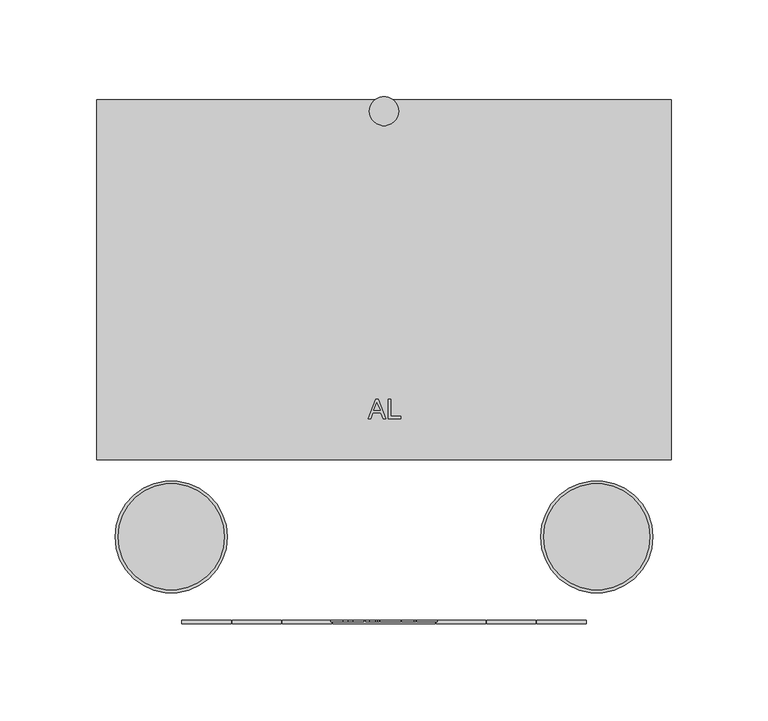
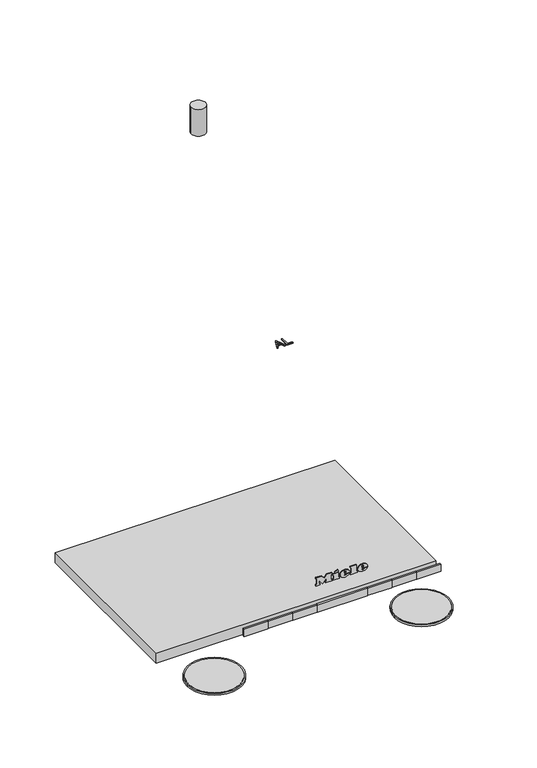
"""IFC4 building model written with IfcOpenShell, lengths in millimetres: proxy geometry, 10837590_RU_DA7198W_GRGR : 28719860_RU_10837590_DA7198W_GRGR."""

import ifcopenshell
import ifcopenshell.guid

model = None  # the IFC model being written
_history = None  # IfcOwnerHistory: only IFC2X3 demands one
_inside = {}  # id of a spatial element -> (the spatial element, [elements in it])
_under = {}  # id of a project, library or spatial element -> (it, [spatial elements below it])
_declared = {}  # id of a project -> (the project, [libraries it declares])
_typed = {}  # id of a type object -> (the type object, [elements of that type])
_made_of = {}  # id of a material, layer set ... -> (it, [elements and type objects made of it])


def new_model(schema):
    """Start an empty IFC model of exactly this schema.

    Asked for "IFC4X3", IfcOpenShell would pick the latest addendum, in which some entities
    have other attributes; the version numbers below select the first issue.
    IFC2X3 requires an IfcOwnerHistory on every rooted entity: one is made here for all.
    """
    global model, _history
    if schema == "IFC4X3":
        model = ifcopenshell.file(schema_version=(4, 3, 0, 0))
    else:
        model = ifcopenshell.file(schema=schema)
    _inside.clear()
    _under.clear()
    _declared.clear()
    _typed.clear()
    _made_of.clear()
    _history = None
    if model.schema == "IFC2X3":
        org = make("IfcOrganization", Name="unknown")
        user = make(
            "IfcPersonAndOrganization",
            ThePerson=make("IfcPerson", FamilyName="unknown"),
            TheOrganization=org,
        )
        app = make(
            "IfcApplication",
            ApplicationDeveloper=org,
            Version="unknown",
            ApplicationFullName="unknown",
            ApplicationIdentifier="unknown",
        )
        _history = make(
            "IfcOwnerHistory",
            OwningUser=user,
            OwningApplication=app,
            ChangeAction="ADDED",
            CreationDate=0,
        )
    return model


def make(cls, **values):
    """One entity of the class cls with the attributes given. An attribute that is None is left unset."""
    return model.create_entity(
        cls, **{name: value for name, value in values.items() if value is not None}
    )


def rooted(cls, **values):
    """An entity with a GlobalId (a new one), such as an element, a storey or a relation."""
    return make(cls, GlobalId=ifcopenshell.guid.new(), OwnerHistory=_history, **values)


def si_unit(unit_type, name, prefix=None):
    """IfcSIUnit, for example si_unit("LENGTHUNIT", "METRE", prefix="MILLI")."""
    return make("IfcSIUnit", UnitType=unit_type, Prefix=prefix, Name=name)


def assignment(units):
    """IfcUnitAssignment: the units of a project."""
    return None if units is None else make("IfcUnitAssignment", Units=units)


def point(xyz):
    """IfcCartesianPoint."""
    return None if xyz is None else make("IfcCartesianPoint", Coordinates=xyz)


def direction(xyz):
    """IfcDirection."""
    return None if xyz is None else make("IfcDirection", DirectionRatios=xyz)


def frame(location, z_axis=None, x_axis=None):
    """IfcAxis2Placement3D, a coordinate frame: its origin and axes. An axis left out is left unset."""
    return make(
        "IfcAxis2Placement3D",
        Location=point(location),
        Axis=direction(z_axis),
        RefDirection=direction(x_axis),
    )


def frame_2d(location, x_axis=None):
    """IfcAxis2Placement2D, a coordinate frame in the plane: its origin and x axis."""
    return make(
        "IfcAxis2Placement2D", Location=point(location), RefDirection=direction(x_axis)
    )


def origin():
    """The frame at (0, 0, 0) with its axes left unset."""
    return frame((0.0, 0.0, 0.0))


def origin_with_axes():
    """The frame at (0, 0, 0) with the z axis (0, 0, 1) and the x axis (1, 0, 0) written out."""
    return frame((0.0, 0.0, 0.0), z_axis=(0.0, 0.0, 1.0), x_axis=(1.0, 0.0, 0.0))


def place(relative_to, where):
    """IfcLocalPlacement: puts the frame where relative to a parent placement (None: the world)."""
    return make(
        "IfcLocalPlacement", PlacementRelTo=relative_to, RelativePlacement=where
    )


def context(
    kind, dimensions, precision=None, world=None, true_north=None, identifier=None
):
    """IfcGeometricRepresentationContext, for example the 3D "Model" context."""
    return make(
        "IfcGeometricRepresentationContext",
        ContextIdentifier=identifier,
        ContextType=kind,
        CoordinateSpaceDimension=dimensions,
        Precision=precision,
        WorldCoordinateSystem=world,
        TrueNorth=true_north,
    )


def project(units=None, contexts=None):
    """IfcProject with its units and contexts."""
    return rooted(
        "IfcProject",
        Name="project",
        RepresentationContexts=contexts,
        UnitsInContext=assignment(units),
    )


def spatial(cls, under=None, at=None, **own):
    """A site, building, storey or space (cls), placed at a placement, below another one or the project."""
    s = rooted(cls, ObjectPlacement=at, **own)
    if under is not None:
        _under.setdefault(under.id(), (under, []))[1].append(s)
    return s


def polyline(points):
    """IfcPolyline through the points."""
    return make("IfcPolyline", Points=[point(p) for p in points])


def circle_curve(where, radius):
    """IfcCircle in the frame where."""
    return make("IfcCircle", Position=where, Radius=radius)


def ellipse_curve(where, semi_axis1, semi_axis2):
    """IfcEllipse in the frame where."""
    return make(
        "IfcEllipse", Position=where, SemiAxis1=semi_axis1, SemiAxis2=semi_axis2
    )


def trimmed(basis, trim1, trim2, sense, master):
    """IfcTrimmedCurve: the piece of a basis curve between two trims."""
    return make(
        "IfcTrimmedCurve",
        BasisCurve=basis,
        Trim1=trim1,
        Trim2=trim2,
        SenseAgreement=sense,
        MasterRepresentation=master,
    )


def segment(curve, same_sense, transition):
    """IfcCompositeCurveSegment."""
    return make(
        "IfcCompositeCurveSegment",
        Transition=transition,
        SameSense=same_sense,
        ParentCurve=curve,
    )


def composite_curve(segments, self_intersect=None):
    """IfcCompositeCurve: segments joined end to end."""
    return make("IfcCompositeCurve", Segments=segments, SelfIntersect=self_intersect)


def outline(outer, holes=None, kind="AREA"):
    """IfcArbitraryClosedProfileDef: a profile drawn as a closed curve; with holes, ...WithVoids."""
    if holes is None:
        return make("IfcArbitraryClosedProfileDef", ProfileType=kind, OuterCurve=outer)
    return make(
        "IfcArbitraryProfileDefWithVoids",
        ProfileType=kind,
        OuterCurve=outer,
        InnerCurves=holes,
    )


def extrude(swept, where, along, depth):
    """IfcExtrudedAreaSolid: the profile swept, set in the frame where, extruded along a direction by depth."""
    return make(
        "IfcExtrudedAreaSolid",
        SweptArea=swept,
        Position=where,
        ExtrudedDirection=direction(along),
        Depth=depth,
    )


def shape(context_of_items, identifier, shape_type, items):
    """IfcShapeRepresentation: the items that make up one representation, for example the "Body"."""
    return make(
        "IfcShapeRepresentation",
        ContextOfItems=context_of_items,
        RepresentationIdentifier=identifier,
        RepresentationType=shape_type,
        Items=items,
    )


def source(mapping_origin, context_of_items, identifier, shape_type, items):
    """IfcRepresentationMap: a shape defined once, which mapped items show again and again."""
    return make(
        "IfcRepresentationMap",
        MappingOrigin=mapping_origin,
        MappedRepresentation=shape(context_of_items, identifier, shape_type, items),
    )


def transform(
    local_origin,
    x_axis=None,
    y_axis=None,
    z_axis=None,
    scale=None,
    scale2=None,
    scale3=None,
    uniform=True,
):
    """IfcCartesianTransformationOperator3D, or its non-uniform kind. x_axis, y_axis, z_axis: its Axis1, 2, 3."""
    if uniform:
        return make(
            "IfcCartesianTransformationOperator3D",
            Axis1=direction(x_axis),
            Axis2=direction(y_axis),
            LocalOrigin=point(local_origin),
            Scale=scale,
            Axis3=direction(z_axis),
        )
    return make(
        "IfcCartesianTransformationOperator3DnonUniform",
        Axis1=direction(x_axis),
        Axis2=direction(y_axis),
        LocalOrigin=point(local_origin),
        Scale=scale,
        Axis3=direction(z_axis),
        Scale2=scale2,
        Scale3=scale3,
    )


def mapped(mapping_source, mapping_target):
    """IfcMappedItem: shows the shape of a source again, moved by a transform."""
    return make(
        "IfcMappedItem", MappingSource=mapping_source, MappingTarget=mapping_target
    )


def made_of(thing, what):
    """Note that an element or type object is made of a material, layer set ...; save() writes the relation."""
    if what is not None:
        _made_of.setdefault(what.id(), (what, []))[1].append(thing)
    return thing


def element(
    cls,
    number,
    at=None,
    inside=None,
    cuts=None,
    type_object=None,
    material=None,
    context=None,
    identifier="Body",
    shape_type=None,
    held_by="IfcProductDefinitionShape",
    body=None,
    shapes=None,
    **own,
):
    """One element of the class cls, such as IfcWall. Its Tag is "e" and its number.

    at: its placement. inside: the storey or other place that contains it. cuts: it is an
    opening in that element (IfcRelVoidsElement). A single representation is given by context,
    identifier, shape_type and body (its items); several are given by shapes. held_by: the class
    of the entity that holds the representations. save() writes the other relations.
    """
    e = rooted(cls, Tag="e%d" % number, ObjectPlacement=at, **own)
    if body is not None:
        shapes = [shape(context, identifier, shape_type, body)]
    if shapes is not None:
        e.Representation = make(held_by, Representations=shapes)
    if inside is not None:
        _inside.setdefault(inside.id(), (inside, []))[1].append(e)
    if cuts is not None:
        rooted(
            "IfcRelVoidsElement", RelatingBuildingElement=cuts, RelatedOpeningElement=e
        )
    if type_object is not None:
        _typed.setdefault(type_object.id(), (type_object, []))[1].append(e)
    return made_of(e, material)


def aggregate(whole, parts):
    """IfcRelAggregates: a whole, such as a stair, and the parts it consists of."""
    return rooted("IfcRelAggregates", RelatingObject=whole, RelatedObjects=parts)


def save(model, path):
    """Write the relations noted so far, then the file.

    IfcRelAggregates (storeys below a building ...), IfcRelContainedInSpatialStructure (elements
    in a storey), IfcRelDefinesByType, IfcRelAssociatesMaterial and IfcRelDeclares: one each for
    every whole, place, type object, material and project.
    """
    for whole, parts in _under.values():
        aggregate(whole, parts)
    for where, things in _inside.values():
        rooted(
            "IfcRelContainedInSpatialStructure",
            RelatedElements=things,
            RelatingStructure=where,
        )
    for kind, things in _typed.values():
        rooted("IfcRelDefinesByType", RelatedObjects=things, RelatingType=kind)
    for what, things in _made_of.values():
        rooted("IfcRelAssociatesMaterial", RelatedObjects=things, RelatingMaterial=what)
    for by, libraries in _declared.values():
        rooted("IfcRelDeclares", RelatingContext=by, RelatedDefinitions=libraries)
    model.write(path)


def plane_surface(at):
    """IfcPlane: the flat surface through the origin of the frame at, square to its z axis."""
    return make("IfcPlane", Position=at)


def cylinder_surface(at, radius):
    """IfcCylindricalSurface: all points at the distance radius from the z axis of the frame at."""
    return make("IfcCylindricalSurface", Position=at, Radius=radius)


def revolved_surface(curve, axis_point, axis_direction):
    """IfcSurfaceOfRevolution: the curve turned about the line through axis_point along axis_direction."""
    return make(
        "IfcSurfaceOfRevolution",
        SweptCurve=make("IfcArbitraryOpenProfileDef", ProfileType="CURVE", Curve=curve),
        AxisPosition=make("IfcAxis1Placement", Location=point(axis_point), Axis=direction(axis_direction)),
    )


def extruded_surface(curve, direction_of_extrusion, depth):
    """IfcSurfaceOfLinearExtrusion: the curve pushed along a direction by depth."""
    return make(
        "IfcSurfaceOfLinearExtrusion",
        SweptCurve=make("IfcArbitraryOpenProfileDef", ProfileType="CURVE", Curve=curve),
        ExtrudedDirection=direction(direction_of_extrusion),
        Depth=depth,
    )


def advanced_brep(points, edges, surfaces, faces):
    """IfcAdvancedBrep: a solid bounded by faces that lie on surfaces and meet in shared edges.

    An edge is (start, end): straight between two places in points (the first is 0);
    or (start, end, curve); or (start, end, curve, False) where it runs against its curve.
    A face is (place in surfaces, loops), or (place, loops, False) where it looks against
    its surface's normal. A loop lists edges by number (the first is 1), with a minus sign
    where the edge is run from its end to its start. The first loop is the outer one.
    """
    corners = [point(p) for p in points]
    vertices = [make("IfcVertexPoint", VertexGeometry=c) for c in corners]
    made = []
    for start, end, *more in edges:
        made.append(
            make(
                "IfcEdgeCurve",
                EdgeStart=vertices[start],
                EdgeEnd=vertices[end],
                EdgeGeometry=more[0] if more else make("IfcPolyline", Points=[corners[start], corners[end]]),
                SameSense=more[1] if len(more) > 1 else True,
            )
        )
    hull = []
    for where, loops, *sense in faces:
        bounds = []
        for j, loop in enumerate(loops):
            ring = [make("IfcOrientedEdge", EdgeElement=made[abs(k) - 1], Orientation=k > 0) for k in loop]
            bounds.append(
                make(
                    "IfcFaceOuterBound" if j == 0 else "IfcFaceBound",
                    Bound=make("IfcEdgeLoop", EdgeList=ring),
                    Orientation=True,
                )
            )
        hull.append(make("IfcAdvancedFace", Bounds=bounds, FaceSurface=surfaces[where], SameSense=sense[0] if sense else True))
    return make("IfcAdvancedBrep", Outer=make("IfcClosedShell", CfsFaces=hull))


def specialty_equipment_e779ac50(model_context):
    return source(origin(), model_context, "Body", "SolidModel", [
        extrude(outline(composite_curve([segment(trimmed(circle_curve(frame_2d((0.0, -22.0)), 7.5), [point((-7.5, -22.0))], [point((7.5, -22.0))], False, "CARTESIAN"), True, "CONTINUOUS"), segment(trimmed(circle_curve(frame_2d((0.0, -22.0)), 7.5), [point((7.5, -22.0))], [point((-7.5, -22.0))], False, "CARTESIAN"), True, "CONTINUOUS")], self_intersect=False)), frame((0.0, 0.0, 440.0), z_axis=(0.0, 0.0, 1.0), x_axis=(1.0, 0.0, 0.0)), (0.0, 0.0, 1.0), 30.0),
        extrude(outline(polyline([(-3.0868012, -170.9480082), (0.9221369, -180.9996288), (-0.4201983, -180.9996288), (-1.5630743, -177.8536246), (-5.7041197, -177.8536246), (-6.9588558, -180.9867213), (-8.1783608, -180.9867213), (-4.1580778, -170.9480082), (-3.0868012, -170.9480082)]), holes=[polyline([(-2.0285512, -176.5915025), (-3.623797, -172.5917386), (-5.2256142, -176.5915025), (-2.0285512, -176.5915025)])]), frame((0.0, 0.0, 296.0), z_axis=(0.0, 0.0, 1.0), x_axis=(1.0, 0.0, 0.0)), (0.0, 0.0, 1.0), 1.0),
        extrude(outline(polyline([(3.5511828, -170.9458297), (3.5511828, -179.7124059), (8.5511838, -179.7124059), (8.5511838, -180.9458278), (2.2629352, -180.9458278), (2.2629352, -170.9458297), (3.5511828, -170.9458297)])), frame((0.0, 0.0, 296.0), z_axis=(0.0, 0.0, 1.0), x_axis=(1.0, 0.0, 0.0)), (0.0, 0.0, 1.0), 1.0),
        extrude(outline(polyline([(16.5, -159.0), (16.5, -202.0), (-16.5, -202.0), (-16.5, -159.0), (16.5, -159.0)]), holes=[polyline([(10.0, -166.0), (-10.0, -166.0), (-10.0, -195.0), (10.0, -195.0), (10.0, -166.0)])]), frame((0.0, 0.0, 4.0), z_axis=(0.0, 0.0, 1.0), x_axis=(1.0, 0.0, 0.0)), (0.0, 0.0, 1.0), 1.0),
        extrude(outline(polyline([(148.5, -16.0), (148.5, -202.0), (-148.5, -202.0), (-148.5, -16.0), (148.5, -16.0)])), frame((0.0, 0.0, 5.0), z_axis=(0.0, 0.0, 1.0), x_axis=(1.0, 0.0, 0.0)), (0.0, 0.0, 1.0), 11.0),
        extrude(outline(polyline([(-104.5, -285.0), (-79.0, -285.0), (-79.0, -287.0), (-104.5, -287.0), (-104.5, -285.0)])), frame((0.0, 0.0, 71.0), z_axis=(0.0, 0.0, 1.0), x_axis=(1.0, 0.0, 0.0)), (0.0, 0.0, 1.0), 8.0),
        extrude(outline(polyline([(-78.5, -285.0), (-53.0, -285.0), (-53.0, -287.0), (-78.5, -287.0), (-78.5, -285.0)])), frame((0.0, 0.0, 71.0), z_axis=(0.0, 0.0, 1.0), x_axis=(1.0, 0.0, 0.0)), (0.0, 0.0, 1.0), 8.0),
        extrude(outline(polyline([(-26.5, -285.0), (26.5, -285.0), (26.5, -287.0), (-26.5, -287.0), (-26.5, -285.0)])), frame((0.0, 0.0, 71.0), z_axis=(0.0, 0.0, 1.0), x_axis=(1.0, 0.0, 0.0)), (0.0, 0.0, 1.0), 8.0),
        extrude(outline(polyline([(53.0, -285.0), (78.5, -285.0), (78.5, -287.0), (53.0, -287.0), (53.0, -285.0)])), frame((0.0, 0.0, 71.0), z_axis=(0.0, 0.0, 1.0), x_axis=(1.0, 0.0, 0.0)), (0.0, 0.0, 1.0), 8.0),
        extrude(outline(polyline([(79.0, -285.0), (104.5, -285.0), (104.5, -287.0), (79.0, -287.0), (79.0, -285.0)])), frame((0.0, 0.0, 71.0), z_axis=(0.0, 0.0, 1.0), x_axis=(1.0, 0.0, 0.0)), (0.0, 0.0, 1.0), 8.0),
        extrude(outline(polyline([(27.0, -285.0), (52.5, -285.0), (52.5, -287.0), (27.0, -287.0), (27.0, -285.0)])), frame((0.0, 0.0, 71.0), z_axis=(0.0, 0.0, 1.0), x_axis=(1.0, 0.0, 0.0)), (0.0, 0.0, 1.0), 8.0),
        extrude(outline(polyline([(-52.5, -285.0), (-27.0, -285.0), (-27.0, -287.0), (-52.5, -287.0), (-52.5, -285.0)])), frame((0.0, 0.0, 71.0), z_axis=(0.0, 0.0, 1.0), x_axis=(1.0, 0.0, 0.0)), (0.0, 0.0, 1.0), 8.0),
        advanced_brep(
        [(21.38, -286.0, 102.133), (21.38, -286.0, 103.042), (27.401, -286.0, 103.042), (16.925, -286.0, 103.042), (19.4, -286.0, 100.0), (27.248, -286.0, 102.133), (24.53, -286.0, 102.133), (22.388, -286.0, 101.125), (21.38, -286.0, 104.194), (21.38, -286.0, 105.175), (22.919, -286.0, 105.175), (22.919, -286.0, 104.194), (21.38, -285.0, 102.133), (22.388, -285.0, 101.125), (24.53, -285.0, 102.133), (27.248, -285.0, 102.133), (19.4, -285.0, 100.0), (16.925, -285.0, 103.042), (27.401, -285.0, 103.042), (21.38, -285.0, 103.042), (21.38, -285.0, 104.194), (22.919, -285.0, 104.194), (22.919, -285.0, 105.175), (21.38, -285.0, 105.175)],
        [
            (0, 1),
            (1, 2),
            (2, 3, ellipse_curve(frame((22.163, -286.0, 103.042), z_axis=(0.0, -1.0, 0.0), x_axis=(-1.0, 0.0, 0.0)), 5.238, 4.329)),
            (3, 4, circle_curve(frame((20.4080491, -286.0, 103.348), z_axis=(0.0, -1.0, 0.0), x_axis=(0.0, 0.0, -1.0)), 3.4964649)),
            (4, 5, circle_curve(frame((22.0581428, -286.0, 105.724), z_axis=(0.0, -1.0, 0.0), x_axis=(0.0, 0.0, -1.0)), 6.3110933)),
            (5, 6),
            (6, 7, circle_curve(frame((22.8279412, -286.0, 102.97), z_axis=(0.0, 1.0, 0.0), x_axis=(0.0, 0.0, -1.0)), 1.896727)),
            (7, 0, circle_curve(frame((22.388, -286.0, 102.133), z_axis=(0.0, 1.0, 0.0), x_axis=(0.0, 0.0, -1.0)), 1.008)),
            (8, 9),
            (9, 10, circle_curve(frame((22.1495, -286.0, 105.175), z_axis=(0.0, 1.0, 0.0), x_axis=(0.0, 0.0, -1.0)), 0.7695)),
            (10, 11),
            (11, 8),
            (12, 13, circle_curve(frame((22.388, -285.0, 102.133), z_axis=(0.0, -1.0, 0.0), x_axis=(0.0, 0.0, -1.0)), 1.008)),
            (13, 14, circle_curve(frame((22.8279412, -285.0, 102.97), z_axis=(0.0, -1.0, 0.0), x_axis=(0.0, 0.0, -1.0)), 1.896727)),
            (14, 15),
            (15, 16, circle_curve(frame((22.0581428, -285.0, 105.724), z_axis=(0.0, 1.0, 0.0), x_axis=(0.0, 0.0, -1.0)), 6.3110933)),
            (16, 17, circle_curve(frame((20.4080491, -285.0, 103.348), z_axis=(0.0, 1.0, 0.0), x_axis=(0.0, 0.0, -1.0)), 3.4964649)),
            (17, 18, ellipse_curve(frame((22.163, -285.0, 103.042), z_axis=(0.0, 1.0, 0.0), x_axis=(-1.0, 0.0, 0.0)), 5.238, 4.329)),
            (18, 19),
            (19, 12),
            (20, 21),
            (21, 22),
            (22, 23, circle_curve(frame((22.1495, -285.0, 105.175), z_axis=(0.0, -1.0, 0.0), x_axis=(0.0, 0.0, -1.0)), 0.7695)),
            (23, 20),
            (0, 12),
            (19, 1),
            (18, 2),
            (5, 15),
            (14, 6),
            (17, 3),
            (13, 7),
            (16, 4),
            (8, 20),
            (23, 9),
            (22, 10),
            (21, 11),
        ],
        [
            plane_surface(frame((21.38, -286.0, 103.042), z_axis=(0.0, -1.0, 0.0), x_axis=(0.0, 0.0, 1.0))),
            plane_surface(frame((21.38, -285.0, 103.042), z_axis=(0.0, 1.0, 0.0), x_axis=(0.0, 0.0, -1.0))),
            plane_surface(frame((21.38, -286.0, 102.133), z_axis=(1.0, 0.0, 0.0), x_axis=(0.0, 1.0, 0.0))),
            plane_surface(frame((21.38, -286.0, 103.042), z_axis=(0.0, 0.0, -1.0), x_axis=(0.0, 1.0, 0.0))),
            plane_surface(frame((27.248, -286.0, 102.133), z_axis=(0.0, 0.0, 1.0), x_axis=(0.0, 1.0, 0.0))),
            extruded_surface(trimmed(ellipse_curve(frame((22.163, -284.0, 103.042), z_axis=(0.0, -1.0, 0.0), x_axis=(-1.0, 0.0, 0.0)), 5.238, 4.329), [point((27.401, -284.0, 103.042))], [point((16.925, -284.0, 103.042))], True, "CARTESIAN"), (0.0, -1.0, 0.0), 1.0),
            revolved_surface(polyline([(22.8279412, -285.0, 101.073273), (22.8279412, -286.0, 101.073273)]), (22.8279412, -285.0, 102.97), (0.0, 1.0, 0.0)),
            revolved_surface(polyline([(22.388, -285.0, 101.125), (22.388, -286.0, 101.125)]), (22.388, -285.0, 102.133), (0.0, 1.0, 0.0)),
            cylinder_surface(frame((20.4080491, -285.0, 103.348), z_axis=(0.0, -1.0, 0.0), x_axis=(0.0, 0.0, -1.0)), 3.4964649),
            cylinder_surface(frame((22.0581428, -285.0, 105.724), z_axis=(0.0, -1.0, 0.0), x_axis=(0.0, 0.0, -1.0)), 6.3110933),
            plane_surface(frame((21.38, -286.0, 104.194), z_axis=(1.0, 0.0, 0.0), x_axis=(0.0, 1.0, 0.0))),
            revolved_surface(polyline([(22.1495, -285.0, 104.4055), (22.1495, -286.0, 104.4055)]), (22.1495, -285.0, 105.175), (0.0, 1.0, 0.0)),
            plane_surface(frame((22.919, -286.0, 105.175), z_axis=(-1.0, 0.0, 0.0), x_axis=(0.0, 1.0, 0.0))),
            plane_surface(frame((22.919, -286.0, 104.194), z_axis=(0.0, 0.0, 1.0), x_axis=(0.0, 1.0, 0.0))),
        ],
        [
            (0, [[1, 2, 3, 4, 5, 6, 7, 8], [9, 10, 11, 12]]),
            (1, [[13, 14, 15, 16, 17, 18, 19, 20], [21, 22, 23, 24]]),
            (2, [[-1, 25, -20, 26]]),
            (3, [[-2, -26, -19, 27]]),
            (4, [[-6, 28, -15, 29]]),
            (5, [[-3, -27, -18, 30]]),
            (6, [[-7, -29, -14, 31]]),
            (7, [[-8, -31, -13, -25]]),
            (8, [[-4, -30, -17, 32]]),
            (9, [[-5, -32, -16, -28]]),
            (10, [[-9, 33, -24, 34]]),
            (11, [[-10, -34, -23, 35]]),
            (12, [[-11, -35, -22, 36]]),
            (13, [[-12, -36, -21, -33]]),
        ],
    ),
        advanced_brep(
        [(2.597, -286.0, 102.133), (2.597, -286.0, 103.042), (8.618, -286.0, 103.042), (-1.858, -286.0, 103.042), (0.617, -286.0, 100.0), (8.465, -286.0, 102.133), (5.747, -286.0, 102.133), (3.605, -286.0, 101.125), (2.597, -286.0, 104.194), (2.597, -286.0, 105.175), (4.136, -286.0, 105.175), (4.136, -286.0, 104.194), (2.597, -285.0, 102.133), (3.605, -285.0, 101.125), (5.747, -285.0, 102.133), (8.465, -285.0, 102.133), (0.617, -285.0, 100.0), (-1.858, -285.0, 103.042), (8.618, -285.0, 103.042), (2.597, -285.0, 103.042), (2.597, -285.0, 104.194), (4.136, -285.0, 104.194), (4.136, -285.0, 105.175), (2.597, -285.0, 105.175)],
        [
            (0, 1),
            (1, 2),
            (2, 3, ellipse_curve(frame((3.38, -286.0, 103.042), z_axis=(0.0, -1.0, 0.0), x_axis=(-1.0, 0.0, 0.0)), 5.238, 4.329)),
            (3, 4, circle_curve(frame((1.6250491, -286.0, 103.348), z_axis=(0.0, -1.0, 0.0), x_axis=(0.0, 0.0, -1.0)), 3.4964649)),
            (4, 5, circle_curve(frame((3.2751428, -286.0, 105.724), z_axis=(0.0, -1.0, 0.0), x_axis=(0.0, 0.0, -1.0)), 6.3110933)),
            (5, 6),
            (6, 7, circle_curve(frame((4.0449412, -286.0, 102.97), z_axis=(0.0, 1.0, 0.0), x_axis=(0.0, 0.0, -1.0)), 1.896727)),
            (7, 0, circle_curve(frame((3.605, -286.0, 102.133), z_axis=(0.0, 1.0, 0.0), x_axis=(0.0, 0.0, -1.0)), 1.008)),
            (8, 9),
            (9, 10, circle_curve(frame((3.3665, -286.0, 105.175), z_axis=(0.0, 1.0, 0.0), x_axis=(0.0, 0.0, -1.0)), 0.7695)),
            (10, 11),
            (11, 8),
            (12, 13, circle_curve(frame((3.605, -285.0, 102.133), z_axis=(0.0, -1.0, 0.0), x_axis=(0.0, 0.0, -1.0)), 1.008)),
            (13, 14, circle_curve(frame((4.0449412, -285.0, 102.97), z_axis=(0.0, -1.0, 0.0), x_axis=(0.0, 0.0, -1.0)), 1.896727)),
            (14, 15),
            (15, 16, circle_curve(frame((3.2751428, -285.0, 105.724), z_axis=(0.0, 1.0, 0.0), x_axis=(0.0, 0.0, -1.0)), 6.3110933)),
            (16, 17, circle_curve(frame((1.6250491, -285.0, 103.348), z_axis=(0.0, 1.0, 0.0), x_axis=(0.0, 0.0, -1.0)), 3.4964649)),
            (17, 18, ellipse_curve(frame((3.38, -285.0, 103.042), z_axis=(0.0, 1.0, 0.0), x_axis=(-1.0, 0.0, 0.0)), 5.238, 4.329)),
            (18, 19),
            (19, 12),
            (20, 21),
            (21, 22),
            (22, 23, circle_curve(frame((3.3665, -285.0, 105.175), z_axis=(0.0, -1.0, 0.0), x_axis=(0.0, 0.0, -1.0)), 0.7695)),
            (23, 20),
            (0, 12),
            (19, 1),
            (18, 2),
            (5, 15),
            (14, 6),
            (17, 3),
            (13, 7),
            (16, 4),
            (8, 20),
            (23, 9),
            (22, 10),
            (21, 11),
        ],
        [
            plane_surface(frame((2.597, -286.0, 103.042), z_axis=(0.0, -1.0, 0.0), x_axis=(0.0, 0.0, 1.0))),
            plane_surface(frame((2.597, -285.0, 103.042), z_axis=(0.0, 1.0, 0.0), x_axis=(0.0, 0.0, -1.0))),
            plane_surface(frame((2.597, -286.0, 102.133), z_axis=(1.0, 0.0, 0.0), x_axis=(0.0, 1.0, 0.0))),
            plane_surface(frame((2.597, -286.0, 103.042), z_axis=(0.0, 0.0, -1.0), x_axis=(0.0, 1.0, 0.0))),
            plane_surface(frame((8.465, -286.0, 102.133), z_axis=(0.0, 0.0, 1.0), x_axis=(0.0, 1.0, 0.0))),
            extruded_surface(trimmed(ellipse_curve(frame((3.38, -284.0, 103.042), z_axis=(0.0, -1.0, 0.0), x_axis=(-1.0, 0.0, 0.0)), 5.238, 4.329), [point((8.618, -284.0, 103.042))], [point((-1.858, -284.0, 103.042))], True, "CARTESIAN"), (0.0, -1.0, 0.0), 1.0),
            revolved_surface(polyline([(4.0449412, -285.0, 101.073273), (4.0449412, -286.0, 101.073273)]), (4.0449412, -285.0, 102.97), (0.0, 1.0, 0.0)),
            revolved_surface(polyline([(3.605, -285.0, 101.125), (3.605, -286.0, 101.125)]), (3.605, -285.0, 102.133), (0.0, 1.0, 0.0)),
            cylinder_surface(frame((1.6250491, -285.0, 103.348), z_axis=(0.0, -1.0, 0.0), x_axis=(0.0, 0.0, -1.0)), 3.4964649),
            cylinder_surface(frame((3.2751428, -285.0, 105.724), z_axis=(0.0, -1.0, 0.0), x_axis=(0.0, 0.0, -1.0)), 6.3110933),
            plane_surface(frame((2.597, -286.0, 104.194), z_axis=(1.0, 0.0, 0.0), x_axis=(0.0, 1.0, 0.0))),
            revolved_surface(polyline([(3.3665, -285.0, 104.4055), (3.3665, -286.0, 104.4055)]), (3.3665, -285.0, 105.175), (0.0, 1.0, 0.0)),
            plane_surface(frame((4.136, -286.0, 105.175), z_axis=(-1.0, 0.0, 0.0), x_axis=(0.0, 1.0, 0.0))),
            plane_surface(frame((4.136, -286.0, 104.194), z_axis=(0.0, 0.0, 1.0), x_axis=(0.0, 1.0, 0.0))),
        ],
        [
            (0, [[1, 2, 3, 4, 5, 6, 7, 8], [9, 10, 11, 12]]),
            (1, [[13, 14, 15, 16, 17, 18, 19, 20], [21, 22, 23, 24]]),
            (2, [[-1, 25, -20, 26]]),
            (3, [[-2, -26, -19, 27]]),
            (4, [[-6, 28, -15, 29]]),
            (5, [[-3, -27, -18, 30]]),
            (6, [[-7, -29, -14, 31]]),
            (7, [[-8, -31, -13, -25]]),
            (8, [[-4, -30, -17, 32]]),
            (9, [[-5, -32, -16, -28]]),
            (10, [[-9, 33, -24, 34]]),
            (11, [[-10, -34, -23, 35]]),
            (12, [[-11, -35, -22, 36]]),
            (13, [[-12, -36, -21, -33]]),
        ],
    ),
        extrude(outline(polyline([(108.469, -7.24), (107.011, -6.556), (108.433, -3.505), (109.891, -4.18), (108.469, -7.24)])), frame((0.0, -286.0, 0.0), z_axis=(0.0, 1.0, 0.0), x_axis=(0.0, 0.0, 1.0)), (0.0, 0.0, 1.0), 1.0),
        extrude(outline(polyline([(106.813, -9.463), (105.202, -9.463), (105.202, -8.392), (101.512, -8.392), (101.512, -9.463), (100.0, -9.463), (100.0, -2.362), (101.512, -2.362), (101.512, -3.406), (106.813, -3.406), (106.813, -9.463)])), frame((0.0, -286.0, 0.0), z_axis=(0.0, 1.0, 0.0), x_axis=(0.0, 0.0, 1.0)), (0.0, 0.0, 1.0), 1.0),
        extrude(outline(polyline([(107.533, 9.122), (107.533, 10.202), (101.512, 10.202), (101.512, 9.122), (100.0, 9.122), (100.0, 16.421), (101.512, 16.421), (101.512, 15.314), (109.0, 15.314), (109.0, 9.122), (107.533, 9.122)])), frame((0.0, -286.0, 0.0), z_axis=(0.0, 1.0, 0.0), x_axis=(0.0, 0.0, 1.0)), (0.0, 0.0, 1.0), 1.0),
        extrude(outline(polyline([(107.533, -27.4), (107.533, -26.311), (101.512, -26.311), (101.512, -27.4), (100.0, -27.4), (100.0, -23.44), (101.512, -23.44), (101.512, -24.52), (105.3341247, -24.52), (100.0, -20.497), (105.4402223, -16.456), (101.512, -16.456), (101.512, -17.563), (100.0, -17.563), (100.0, -10.381), (101.512, -10.381), (101.512, -11.524), (107.533, -11.524), (107.533, -10.381), (109.0, -10.381), (109.0, -15.862), (105.625, -18.49), (109.0, -21.127), (109.0, -27.4), (107.533, -27.4)])), frame((0.0, -286.0, 0.0), z_axis=(0.0, 1.0, 0.0), x_axis=(0.0, 0.0, 1.0)), (0.0, 0.0, 1.0), 1.0),
        extrude(outline(composite_curve([segment(trimmed(circle_curve(frame_2d((-110.0, -242.0)), 27.5), [point((-82.5, -242.0))], [point((-137.5, -242.0))], False, "CARTESIAN"), True, "CONTINUOUS"), segment(trimmed(circle_curve(frame_2d((-110.0, -242.0)), 27.5), [point((-137.5, -242.0))], [point((-82.5, -242.0))], False, "CARTESIAN"), True, "CONTINUOUS")], self_intersect=False)), origin_with_axes(), (0.0, 0.0, 1.0), 2.0),
        extrude(outline(composite_curve([segment(trimmed(circle_curve(frame_2d((110.0, -242.0)), 27.5), [point((137.5, -242.0))], [point((82.5, -242.0))], False, "CARTESIAN"), True, "CONTINUOUS"), segment(trimmed(circle_curve(frame_2d((110.0, -242.0)), 27.5), [point((82.5, -242.0))], [point((137.5, -242.0))], False, "CARTESIAN"), True, "CONTINUOUS")], self_intersect=False)), origin_with_axes(), (0.0, 0.0, 1.0), 2.0),
        extrude(outline(composite_curve([segment(trimmed(circle_curve(frame_2d((-110.0, -242.0)), 29.0), [point((-81.0, -242.0))], [point((-139.0, -242.0))], False, "CARTESIAN"), True, "CONTINUOUS"), segment(trimmed(circle_curve(frame_2d((-110.0, -242.0)), 29.0), [point((-139.0, -242.0))], [point((-81.0, -242.0))], False, "CARTESIAN"), True, "CONTINUOUS")], self_intersect=False), holes=[composite_curve([segment(trimmed(circle_curve(frame_2d((-110.0, -242.0)), 27.5), [point((-82.5, -242.0))], [point((-137.5, -242.0))], True, "CARTESIAN"), True, "CONTINUOUS"), segment(trimmed(circle_curve(frame_2d((-110.0, -242.0)), 27.5), [point((-137.5, -242.0))], [point((-82.5, -242.0))], True, "CARTESIAN"), True, "CONTINUOUS")], self_intersect=False)]), origin_with_axes(), (0.0, 0.0, 1.0), 2.0),
        extrude(outline(composite_curve([segment(trimmed(circle_curve(frame_2d((110.0, -242.0)), 29.0), [point((139.0, -242.0))], [point((81.0, -242.0))], False, "CARTESIAN"), True, "CONTINUOUS"), segment(trimmed(circle_curve(frame_2d((110.0, -242.0)), 29.0), [point((81.0, -242.0))], [point((139.0, -242.0))], False, "CARTESIAN"), True, "CONTINUOUS")], self_intersect=False), holes=[composite_curve([segment(trimmed(circle_curve(frame_2d((110.0, -242.0)), 27.5), [point((137.5, -242.0))], [point((82.5, -242.0))], True, "CARTESIAN"), True, "CONTINUOUS"), segment(trimmed(circle_curve(frame_2d((110.0, -242.0)), 27.5), [point((82.5, -242.0))], [point((137.5, -242.0))], True, "CARTESIAN"), True, "CONTINUOUS")], self_intersect=False)]), origin_with_axes(), (0.0, 0.0, 1.0), 2.0),
    ])


if __name__ == "__main__":
    model = new_model("IFC4")
    model_context = context("Model", 3, world=origin())
    ifc_project = project(units=[si_unit("LENGTHUNIT", "METRE", prefix="MILLI")], contexts=[model_context])
    site = spatial("IfcSite", under=ifc_project)
    building = spatial("IfcBuilding", under=site)
    placement = place(None, origin())
    specialty_equipment_shape = specialty_equipment_e779ac50(model_context)
    element("IfcBuildingElementProxy", 1, Name="10837590_RU_DA7198W_GRGR : 28719860_RU_10837590_DA7198W_GRGR", ObjectType="10837590_RU_DA7198W_GRGR : 28719860_RU_10837590_DA7198W_GRGR", at=placement, inside=building, context=model_context, shape_type="MappedRepresentation", body=[
        mapped(specialty_equipment_shape, transform((0.0, 0.0, 0.0), x_axis=(1.0, 0.0, 0.0), y_axis=(0.0, 1.0, 0.0), z_axis=(0.0, 0.0, 1.0))),
    ])
    save(model, "model.ifc")
